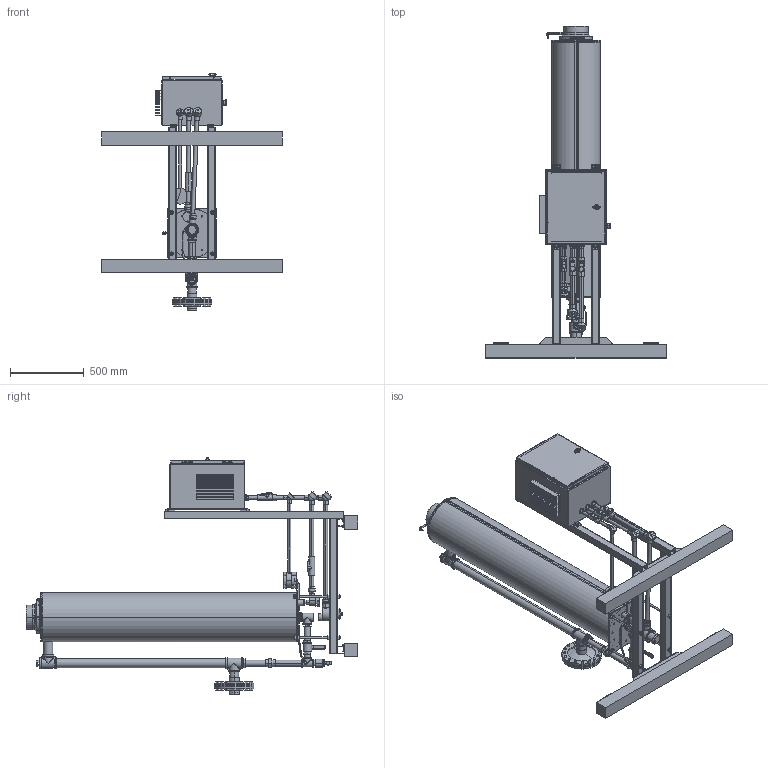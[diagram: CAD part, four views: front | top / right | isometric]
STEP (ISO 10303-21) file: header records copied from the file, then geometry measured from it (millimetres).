
FILE_DESCRIPTION (( 'STEP AP203' ), '1' );
FILE_NAME ('f100-assy.STEP', '2018-02-23T16:47:41', ( 'user' ), ( '' ), 'SwSTEP 2.0', 'SolidWorks 2011', '' );
FILE_SCHEMA (( 'CONFIG_CONTROL_DESIGN' ));
Length unit declared in the file: inch
Products named in the file (1): f100-assy
Bounding box: 1219.2 x 2247.35 x 1607.35 mm (x, y, z)
Surface area: 10184562.7 mm2 (no closed solid volume)
Topology: 0 solids, 266 shells, 1884 faces, 6903 edges, 5059 vertices
Faces by surface type: plane 908, cylinder 672, cone 115, torus 108, bspline 69, sphere 12
Entity records: 94068 total; most frequent: CARTESIAN_POINT 38225, DIRECTION 11367, ORIENTED_EDGE 10271, EDGE_CURVE 6875, VERTEX_POINT 5053, AXIS2_PLACEMENT_3D 4018, VECTOR 3331, LINE 3331
